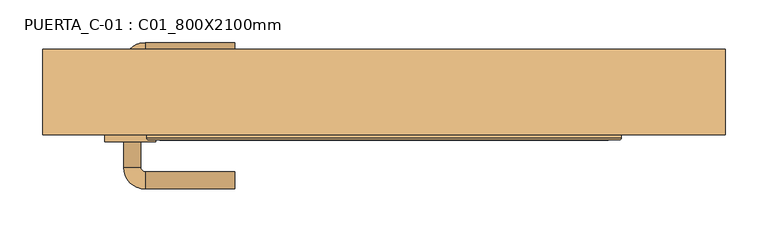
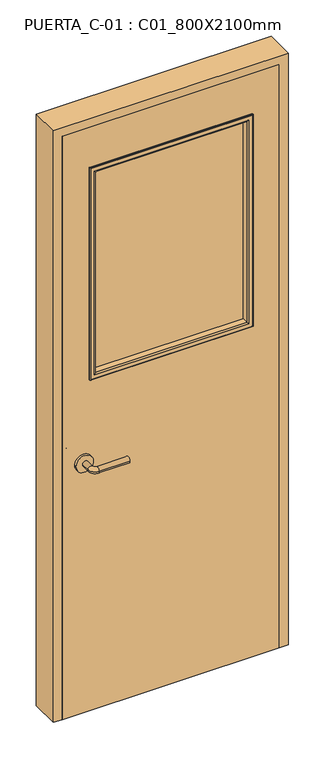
"""IFC4 building model written with IfcOpenShell, lengths in millimetres: door geometry, PUERTA_C-01 : C01_800X2100mm."""

from ifc_helpers import new_model, si_unit, point, frame, frame_2d, origin, place, context, project, spatial, polyline, circle_curve, ellipse_curve, trimmed, segment, composite_curve, outline, extrude, faceted_brep, source, transform, mapped, element, save
from ifc_brep_helpers import plane_surface, cylinder_surface, revolved_surface, advanced_brep


def puerta_c_01_c01_800x2100mm_3cbcec37(model_context):
    return source(origin(), model_context, "Body", "SolidModel", [
        advanced_brep(
        [(-304.990625, -13.35, 900.0), (-284.990625, -13.35, 900.0), (-304.990625, 16.65, 900.0), (-284.990625, 16.65, 900.0), (-279.990625, 21.65, 900.0), (-279.990625, 41.65, 900.0), (-174.990625, 41.65, 900.0), (-174.990625, 21.65, 900.0)],
        [
            (0, 1, circle_curve(frame((-294.990625, -13.35, 900.0), z_axis=(0.0, -1.0, 0.0), x_axis=(1.0, 0.0, 0.0)), 10.0)),
            (1, 0, circle_curve(frame((-294.990625, -13.35, 900.0), z_axis=(0.0, -1.0, 0.0), x_axis=(1.0, 0.0, 0.0)), 10.0)),
            (0, 2),
            (2, 3, circle_curve(frame((-294.990625, 16.65, 900.0), z_axis=(0.0, -1.0, 0.0), x_axis=(1.0, 0.0, 0.0)), 10.0)),
            (3, 1),
            (3, 2, circle_curve(frame((-294.990625, 16.65, 900.0), z_axis=(0.0, -1.0, 0.0), x_axis=(1.0, 0.0, 0.0)), 10.0)),
            (4, 3, circle_curve(frame((-279.990625, 16.65, 900.0), z_axis=(0.0, 0.0, 1.0), x_axis=(-1.0, 0.0, 0.0)), 5.0)),
            (2, 5, circle_curve(frame((-279.990625, 16.65, 900.0), z_axis=(0.0, 0.0, -1.0), x_axis=(-1.0, 0.0, 0.0)), 25.0)),
            (5, 4, circle_curve(frame((-279.990625, 31.65, 900.0), z_axis=(-1.0, 0.0, 0.0), x_axis=(0.0, -1.0, 0.0)), 10.0)),
            (4, 5, circle_curve(frame((-279.990625, 31.65, 900.0), z_axis=(-1.0, 0.0, 0.0), x_axis=(0.0, -1.0, 0.0)), 10.0)),
            (6, 7, circle_curve(frame((-174.990625, 31.65, 900.0), z_axis=(1.0, 0.0, 0.0), x_axis=(0.0, -1.0, 0.0)), 10.0)),
            (7, 6, circle_curve(frame((-174.990625, 31.65, 900.0), z_axis=(1.0, 0.0, 0.0), x_axis=(0.0, -1.0, 0.0)), 10.0)),
            (5, 6),
            (7, 4),
        ],
        [
            plane_surface(frame((-294.990625, -13.35, 900.0), z_axis=(0.0, -1.0, 0.0), x_axis=(0.0, 0.0, 1.0))),
            cylinder_surface(frame((-294.990625, -13.35, 900.0), z_axis=(0.0, -1.0, 0.0), x_axis=(1.0, 0.0, 0.0)), 10.0),
            revolved_surface(trimmed(ellipse_curve(frame((-294.990625, 16.65, 900.0), z_axis=(0.0, -1.0, 0.0), x_axis=(1.0, 0.0, 0.0)), 10.0, 10.0), [point((-304.990625, 16.65, 900.0))], [point((-284.990625, 16.65, 900.0))], True, "CARTESIAN"), (-279.990625, 16.65, 900.0), (0.0, 0.0, -1.0)),
            revolved_surface(trimmed(ellipse_curve(frame((-294.990625, 16.65, 900.0), z_axis=(0.0, -1.0, 0.0), x_axis=(1.0, 0.0, 0.0)), 10.0, 10.0), [point((-284.990625, 16.65, 900.0))], [point((-304.990625, 16.65, 900.0))], True, "CARTESIAN"), (-279.990625, 16.65, 900.0), (0.0, 0.0, -1.0)),
            plane_surface(frame((-174.990625, 31.65, 900.0), z_axis=(1.0, 0.0, 0.0), x_axis=(0.0, 0.0, 1.0))),
            cylinder_surface(frame((-279.990625, 31.65, 900.0), z_axis=(-1.0, 0.0, 0.0), x_axis=(0.0, -1.0, 0.0)), 10.0),
        ],
        [
            (0, [[1, 2]]),
            (1, [[-1, 3, 4, 5]]),
            (1, [[-2, -5, 6, -3]]),
            (2, [[7, -4, 8, 9]]),
            (3, [[-8, -6, -7, 10]]),
            (4, [[11, 12]]),
            (5, [[-9, 13, -12, 14]]),
            (5, [[-10, -14, -11, -13]]),
        ],
    ),
        extrude(outline(composite_curve([segment(trimmed(circle_curve(frame_2d((900.0, -297.490625)), 30.0), [point((900.0, -327.490625))], [point((900.0, -267.490625))], False, "CARTESIAN"), True, "CONTINUOUS"), segment(trimmed(circle_curve(frame_2d((900.0, -297.490625)), 30.0), [point((900.0, -267.490625))], [point((900.0, -327.490625))], False, "CARTESIAN"), True, "CONTINUOUS")], self_intersect=False)), frame((0.0, -21.35, 0.0), z_axis=(0.0, 1.0, 0.0), x_axis=(0.0, 0.0, 1.0)), (0.0, 0.0, 1.0), 8.0),
        advanced_brep(
        [(-304.990625, -74.35, 900.0), (-284.990625, -74.35, 900.0), (-284.990625, -104.35, 900.0), (-304.990625, -104.35, 900.0), (-279.990625, -109.35, 900.0), (-279.990625, -129.35, 900.0), (-174.990625, -129.35, 900.0), (-174.990625, -109.35, 900.0)],
        [
            (0, 1, circle_curve(frame((-294.990625, -74.35, 900.0), z_axis=(0.0, 1.0, 0.0), x_axis=(1.0, 0.0, 0.0)), 10.0)),
            (1, 0, circle_curve(frame((-294.990625, -74.35, 900.0), z_axis=(0.0, 1.0, 0.0), x_axis=(1.0, 0.0, 0.0)), 10.0)),
            (1, 2),
            (2, 3, circle_curve(frame((-294.990625, -104.35, 900.0), z_axis=(0.0, 1.0, 0.0), x_axis=(1.0, 0.0, 0.0)), 10.0)),
            (3, 0),
            (3, 2, circle_curve(frame((-294.990625, -104.35, 900.0), z_axis=(0.0, 1.0, 0.0), x_axis=(1.0, 0.0, 0.0)), 10.0)),
            (4, 5, circle_curve(frame((-279.990625, -119.35, 900.0), z_axis=(-1.0, 0.0, 0.0), x_axis=(0.0, 1.0, 0.0)), 10.0)),
            (5, 3, circle_curve(frame((-279.990625, -104.35, 900.0), z_axis=(0.0, 0.0, -1.0), x_axis=(-1.0, 0.0, 0.0)), 25.0)),
            (2, 4, circle_curve(frame((-279.990625, -104.35, 900.0), z_axis=(0.0, 0.0, 1.0), x_axis=(-1.0, 0.0, 0.0)), 5.0)),
            (5, 4, circle_curve(frame((-279.990625, -119.35, 900.0), z_axis=(-1.0, 0.0, 0.0), x_axis=(0.0, 1.0, 0.0)), 10.0)),
            (6, 7, circle_curve(frame((-174.990625, -119.35, 900.0), z_axis=(1.0, 0.0, 0.0), x_axis=(0.0, 1.0, 0.0)), 10.0)),
            (7, 6, circle_curve(frame((-174.990625, -119.35, 900.0), z_axis=(1.0, 0.0, 0.0), x_axis=(0.0, 1.0, 0.0)), 10.0)),
            (4, 7),
            (6, 5),
        ],
        [
            plane_surface(frame((-294.990625, -74.35, 900.0), z_axis=(0.0, 1.0, 0.0), x_axis=(0.0, 0.0, 1.0))),
            cylinder_surface(frame((-294.990625, -74.35, 900.0), z_axis=(0.0, 1.0, 0.0), x_axis=(1.0, 0.0, 0.0)), 10.0),
            revolved_surface(trimmed(ellipse_curve(frame((-294.990625, -104.35, 900.0), z_axis=(0.0, -1.0, 0.0), x_axis=(1.0, 0.0, 0.0)), 10.0, 10.0), [point((-304.990625, -104.35, 900.0))], [point((-284.990625, -104.35, 900.0))], True, "CARTESIAN"), (-279.990625, -104.35, 900.0), (0.0, 0.0, -1.0)),
            revolved_surface(trimmed(ellipse_curve(frame((-294.990625, -104.35, 900.0), z_axis=(0.0, -1.0, 0.0), x_axis=(1.0, 0.0, 0.0)), 10.0, 10.0), [point((-284.990625, -104.35, 900.0))], [point((-304.990625, -104.35, 900.0))], True, "CARTESIAN"), (-279.990625, -104.35, 900.0), (0.0, 0.0, -1.0)),
            plane_surface(frame((-174.990625, -119.35, 900.0), z_axis=(1.0, 0.0, 0.0), x_axis=(0.0, 0.0, 1.0))),
            cylinder_surface(frame((-279.990625, -119.35, 900.0), z_axis=(-1.0, 0.0, 0.0), x_axis=(0.0, 1.0, 0.0)), 10.0),
        ],
        [
            (0, [[1, 2]]),
            (1, [[3, 4, 5, -2]]),
            (1, [[-5, 6, -3, -1]]),
            (2, [[7, 8, -4, 9]]),
            (3, [[10, -9, -6, -8]]),
            (4, [[11, 12]]),
            (5, [[13, -11, 14, -7]]),
            (5, [[-14, -12, -13, -10]]),
        ],
    ),
        extrude(outline(composite_curve([segment(trimmed(circle_curve(frame_2d((900.0, -297.490625)), 30.0), [point((900.0, -327.490625))], [point((900.0, -267.490625))], False, "CARTESIAN"), True, "CONTINUOUS"), segment(trimmed(circle_curve(frame_2d((900.0, -297.490625)), 30.0), [point((900.0, -267.490625))], [point((900.0, -327.490625))], False, "CARTESIAN"), True, "CONTINUOUS")], self_intersect=False)), frame((0.0, -74.35, 0.0), z_axis=(0.0, 1.0, 0.0), x_axis=(0.0, 0.0, 1.0)), (0.0, 0.0, 1.0), 8.0),
        faceted_brep([(370.0, -33.1875, 0.0), (354.125, -33.1875, 0.0), (354.125, 33.65, 0.0), (400.0, 33.65, 0.0), (400.0, -66.35, 0.0), (370.0, -66.35, 0.0), (370.0, -66.35, 2100.0), (370.0, -33.1875, 2100.0), (400.0, -66.35, 2130.0), (-400.0, -66.35, 2130.0), (-400.0, -66.35, 0.0), (-370.0, -66.35, 0.0), (-370.0, -66.35, 2100.0), (400.0, 33.65, 2130.0), (354.125, 33.65, 2084.125), (-354.125, 33.65, 2084.125), (-354.125, 33.65, 0.0), (-400.0, 33.65, 0.0), (-400.0, 33.65, 2130.0), (-370.0, -33.1875, 2100.0), (-370.0, -33.1875, 0.0), (-354.125, -33.1875, 0.0), (-354.125, -33.1875, 2084.125), (354.125, -33.1875, 2084.125)], [[[0, 1, 2, 3, 4, 5]], [[5, 6, 7, 0]], [[4, 8, 9, 10, 11, 12, 6, 5]], [[3, 13, 8, 4]], [[2, 14, 15, 16, 17, 18, 13, 3]], [[0, 7, 19, 20, 21, 22, 23, 1]], [[6, 12, 19, 7]], [[13, 18, 9, 8]], [[20, 11, 10, 17, 16, 21]], [[12, 11, 20, 19]], [[18, 17, 10, 9]], [[1, 23, 14, 2]], [[23, 22, 15, 14]], [[22, 21, 16, 15]]]),
        extrude(outline(polyline([(2100.0, -370.0), (0.0, -370.0), (0.0, 370.0), (2100.0, 370.0), (2100.0, -370.0)]), holes=[polyline([(1947.6, -270.0), (1947.6, 270.0), (1200.0, 270.0), (1200.0, -270.0), (1947.6, -270.0)])]), frame((0.0, -66.35, 0.0), z_axis=(0.0, 1.0, 0.0), x_axis=(0.0, 0.0, 1.0)), (0.0, 0.0, 1.0), 45.0),
        extrude(outline(polyline([(270.0, -41.35), (270.0, -46.35), (-270.0, -46.35), (-270.0, -41.35), (270.0, -41.35)])), frame((0.0, 0.0, 1200.0), z_axis=(0.0, 0.0, 1.0), x_axis=(1.0, 0.0, 0.0)), (0.0, 0.0, 1.0), 747.6),
        advanced_brep(
        [(-270.0, -41.35, 1200.0), (-270.0, -41.35, 1947.6), (-270.0, -21.35, 1947.6), (-270.0, -21.35, 1200.0), (-258.0, -20.35, 1212.0), (-258.0, -20.35, 1935.6), (-258.0, -41.35, 1935.6), (-258.0, -41.35, 1212.0), (-263.0, -15.35, 1207.0), (-263.0, -15.35, 1940.6), (-278.0, -17.35, 1192.0), (-278.0, -17.35, 1955.6), (-276.0, -15.35, 1953.6), (-276.0, -15.35, 1194.0), (-278.0, -21.35, 1192.0), (-278.0, -21.35, 1955.6), (270.0, -41.35, 1947.6), (270.0, -21.35, 1947.6), (258.0, -20.35, 1935.6), (258.0, -41.35, 1935.6), (263.0, -15.35, 1940.6), (278.0, -17.35, 1955.6), (276.0, -15.35, 1953.6), (278.0, -21.35, 1955.6), (270.0, -41.35, 1200.0), (270.0, -21.35, 1200.0), (258.0, -20.35, 1212.0), (258.0, -41.35, 1212.0), (263.0, -15.35, 1207.0), (278.0, -17.35, 1192.0), (276.0, -15.35, 1194.0), (278.0, -21.35, 1192.0)],
        [
            (0, 1),
            (1, 2),
            (2, 3),
            (3, 0),
            (4, 5),
            (5, 6),
            (6, 7),
            (7, 4),
            (8, 9),
            (9, 5, ellipse_curve(frame((-263.0, -20.35, 1940.6), z_axis=(-0.7071067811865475, 0.0, -0.7071067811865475), x_axis=(0.7071067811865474, 0.0, -0.7071067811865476)), 7.0710678, 5.0)),
            (4, 8, ellipse_curve(frame((-263.0, -20.35, 1207.0), z_axis=(-0.7071067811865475, 0.0, 0.7071067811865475), x_axis=(-0.7071067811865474, 0.0, -0.7071067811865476)), 7.0710678, 5.0)),
            (10, 11),
            (11, 12, ellipse_curve(frame((-276.0, -17.35, 1953.6), z_axis=(-0.7071067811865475, 0.0, -0.7071067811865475), x_axis=(0.7071067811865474, 0.0, -0.7071067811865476)), 2.8284271, 2.0)),
            (12, 13),
            (13, 10, ellipse_curve(frame((-276.0, -17.35, 1194.0), z_axis=(-0.7071067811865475, 0.0, 0.7071067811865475), x_axis=(-0.7071067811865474, 0.0, -0.7071067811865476)), 2.8284271, 2.0)),
            (14, 15),
            (15, 11),
            (10, 14),
            (1, 16),
            (16, 17),
            (17, 2),
            (5, 18),
            (18, 19),
            (19, 6),
            (9, 20),
            (20, 18, ellipse_curve(frame((263.0, -20.35, 1940.6), z_axis=(-0.7071067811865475, 0.0, 0.7071067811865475), x_axis=(-0.7071067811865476, 0.0, -0.7071067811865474)), 7.0710678, 5.0)),
            (11, 21),
            (21, 22, ellipse_curve(frame((276.0, -17.35, 1953.6), z_axis=(-0.7071067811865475, 0.0, 0.7071067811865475), x_axis=(-0.7071067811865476, 0.0, -0.7071067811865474)), 2.8284271, 2.0)),
            (22, 12),
            (15, 23),
            (23, 21),
            (16, 24),
            (24, 25),
            (25, 17),
            (18, 26),
            (26, 27),
            (27, 19),
            (20, 28),
            (28, 26, ellipse_curve(frame((263.0, -20.35, 1207.0), z_axis=(0.7071067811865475, 0.0, 0.7071067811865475), x_axis=(-0.7071067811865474, 0.0, 0.7071067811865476)), 7.0710678, 5.0)),
            (21, 29),
            (29, 30, ellipse_curve(frame((276.0, -17.35, 1194.0), z_axis=(0.7071067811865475, 0.0, 0.7071067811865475), x_axis=(-0.7071067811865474, 0.0, 0.7071067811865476)), 2.8284271, 2.0)),
            (30, 22),
            (23, 31),
            (31, 29),
            (14, 31),
            (25, 3),
            (24, 0),
            (27, 7),
            (26, 4),
            (28, 8),
            (30, 13),
            (29, 10),
        ],
        [
            plane_surface(frame((-270.0, -21.35, 1200.0), z_axis=(-1.0, 0.0, 0.0), x_axis=(0.0, 0.0, 1.0))),
            plane_surface(frame((-258.0, -41.35, 1212.0), z_axis=(1.0, 0.0, 0.0), x_axis=(0.0, 0.0, 1.0))),
            cylinder_surface(frame((-263.0, -20.35, 1200.0), z_axis=(0.0, 0.0, -1.0), x_axis=(-1.0, 0.0, 0.0)), 5.0),
            cylinder_surface(frame((-276.0, -17.35, 1200.0), z_axis=(0.0, 0.0, -1.0), x_axis=(-1.0, 0.0, 0.0)), 2.0),
            plane_surface(frame((-278.0, -17.35, 1192.0), z_axis=(-1.0, 0.0, 0.0), x_axis=(0.0, 0.0, 1.0))),
            plane_surface(frame((-270.0, -21.35, 1947.6), z_axis=(0.0, 0.0, 1.0), x_axis=(1.0, 0.0, 0.0))),
            plane_surface(frame((-258.0, -41.35, 1935.6), z_axis=(0.0, 0.0, -1.0), x_axis=(1.0, 0.0, 0.0))),
            cylinder_surface(frame((-270.0, -20.35, 1940.6), z_axis=(-1.0, 0.0, 0.0), x_axis=(0.0, 0.0, 1.0)), 5.0),
            cylinder_surface(frame((-270.0, -17.35, 1953.6), z_axis=(-1.0, 0.0, 0.0), x_axis=(0.0, 0.0, 1.0)), 2.0),
            plane_surface(frame((-278.0, -17.35, 1955.6), z_axis=(0.0, 0.0, 1.0), x_axis=(1.0, 0.0, 0.0))),
            plane_surface(frame((270.0, -21.35, 1947.6), z_axis=(1.0, 0.0, 0.0), x_axis=(0.0, 0.0, -1.0))),
            plane_surface(frame((258.0, -41.35, 1935.6), z_axis=(-1.0, 0.0, 0.0), x_axis=(0.0, 0.0, -1.0))),
            cylinder_surface(frame((263.0, -20.35, 1947.6), z_axis=(0.0, 0.0, 1.0), x_axis=(1.0, 0.0, 0.0)), 5.0),
            cylinder_surface(frame((276.0, -17.35, 1947.6), z_axis=(0.0, 0.0, 1.0), x_axis=(1.0, 0.0, 0.0)), 2.0),
            plane_surface(frame((278.0, -17.35, 1955.6), z_axis=(1.0, 0.0, 0.0), x_axis=(0.0, 0.0, -1.0))),
            plane_surface(frame((278.0, -21.35, 1192.0), z_axis=(0.0, -1.0, 0.0), x_axis=(-1.0, 0.0, 0.0))),
            plane_surface(frame((270.0, -21.35, 1200.0), z_axis=(0.0, 0.0, -1.0), x_axis=(-1.0, 0.0, 0.0))),
            plane_surface(frame((270.0, -41.35, 1200.0), z_axis=(0.0, -1.0, 0.0), x_axis=(-1.0, 0.0, 0.0))),
            plane_surface(frame((258.0, -41.35, 1212.0), z_axis=(0.0, 0.0, 1.0), x_axis=(-1.0, 0.0, 0.0))),
            cylinder_surface(frame((270.0, -20.35, 1207.0), z_axis=(1.0, 0.0, 0.0), x_axis=(0.0, 0.0, -1.0)), 5.0),
            plane_surface(frame((263.0, -15.35, 1207.0), z_axis=(0.0, 1.0, 0.0), x_axis=(-1.0, 0.0, 0.0))),
            cylinder_surface(frame((270.0, -17.35, 1194.0), z_axis=(1.0, 0.0, 0.0), x_axis=(0.0, 0.0, -1.0)), 2.0),
            plane_surface(frame((278.0, -17.35, 1192.0), z_axis=(0.0, 0.0, -1.0), x_axis=(-1.0, 0.0, 0.0))),
        ],
        [
            (0, [[1, 2, 3, 4]]),
            (1, [[5, 6, 7, 8]]),
            (2, [[9, 10, -5, 11]]),
            (3, [[12, 13, 14, 15]]),
            (4, [[16, 17, -12, 18]]),
            (5, [[19, 20, 21, -2]]),
            (6, [[22, 23, 24, -6]]),
            (7, [[25, 26, -22, -10]]),
            (8, [[27, 28, 29, -13]]),
            (9, [[30, 31, -27, -17]]),
            (10, [[32, 33, 34, -20]]),
            (11, [[35, 36, 37, -23]]),
            (12, [[38, 39, -35, -26]]),
            (13, [[40, 41, 42, -28]]),
            (14, [[43, 44, -40, -31]]),
            (15, [[-16, 45, -43, -30], [-3, -21, -34, 46]]),
            (16, [[47, -4, -46, -33]]),
            (17, [[-1, -47, -32, -19], [-7, -24, -37, 48]]),
            (18, [[49, -8, -48, -36]]),
            (19, [[50, -11, -49, -39]]),
            (20, [[-14, -29, -42, 51], [-9, -50, -38, -25]]),
            (21, [[52, -15, -51, -41]]),
            (22, [[-45, -18, -52, -44]]),
        ],
    ),
        advanced_brep(
        [(-270.0, -46.35, 1947.6), (-270.0, -46.35, 1200.0), (-270.0, -66.35, 1200.0), (-270.0, -66.35, 1947.6), (-258.0, -67.35, 1935.6), (-258.0, -67.35, 1212.0), (-258.0, -46.35, 1212.0), (-258.0, -46.35, 1935.6), (-263.0, -72.35, 1940.6), (-263.0, -72.35, 1207.0), (-278.0, -70.35, 1955.6), (-278.0, -70.35, 1192.0), (-276.0, -72.35, 1194.0), (-276.0, -72.35, 1953.6), (-278.0, -66.35, 1955.6), (-278.0, -66.35, 1192.0), (270.0, -46.35, 1200.0), (270.0, -66.35, 1200.0), (258.0, -67.35, 1212.0), (258.0, -46.35, 1212.0), (263.0, -72.35, 1207.0), (278.0, -70.35, 1192.0), (276.0, -72.35, 1194.0), (278.0, -66.35, 1192.0), (270.0, -46.35, 1947.6), (270.0, -66.35, 1947.6), (258.0, -67.35, 1935.6), (258.0, -46.35, 1935.6), (263.0, -72.35, 1940.6), (278.0, -70.35, 1955.6), (276.0, -72.35, 1953.6), (278.0, -66.35, 1955.6)],
        [
            (0, 1),
            (1, 2),
            (2, 3),
            (3, 0),
            (4, 5),
            (5, 6),
            (6, 7),
            (7, 4),
            (8, 9),
            (9, 5, ellipse_curve(frame((-263.0, -67.35, 1207.0), z_axis=(-0.7071067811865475, 0.0, 0.7071067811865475), x_axis=(0.7071067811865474, 0.0, 0.7071067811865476)), 7.0710678, 5.0)),
            (4, 8, ellipse_curve(frame((-263.0, -67.35, 1940.6), z_axis=(-0.7071067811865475, 0.0, -0.7071067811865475), x_axis=(-0.7071067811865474, 0.0, 0.7071067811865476)), 7.0710678, 5.0)),
            (10, 11),
            (11, 12, ellipse_curve(frame((-276.0, -70.35, 1194.0), z_axis=(-0.7071067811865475, 0.0, 0.7071067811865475), x_axis=(0.7071067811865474, 0.0, 0.7071067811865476)), 2.8284271, 2.0)),
            (12, 13),
            (13, 10, ellipse_curve(frame((-276.0, -70.35, 1953.6), z_axis=(-0.7071067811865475, 0.0, -0.7071067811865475), x_axis=(-0.7071067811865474, 0.0, 0.7071067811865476)), 2.8284271, 2.0)),
            (14, 15),
            (15, 11),
            (10, 14),
            (1, 16),
            (16, 17),
            (17, 2),
            (5, 18),
            (18, 19),
            (19, 6),
            (9, 20),
            (20, 18, ellipse_curve(frame((263.0, -67.35, 1207.0), z_axis=(-0.7071067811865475, 0.0, -0.7071067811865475), x_axis=(-0.7071067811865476, 0.0, 0.7071067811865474)), 7.0710678, 5.0)),
            (11, 21),
            (21, 22, ellipse_curve(frame((276.0, -70.35, 1194.0), z_axis=(-0.7071067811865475, 0.0, -0.7071067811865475), x_axis=(-0.7071067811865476, 0.0, 0.7071067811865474)), 2.8284271, 2.0)),
            (22, 12),
            (15, 23),
            (23, 21),
            (16, 24),
            (24, 25),
            (25, 17),
            (18, 26),
            (26, 27),
            (27, 19),
            (20, 28),
            (28, 26, ellipse_curve(frame((263.0, -67.35, 1940.6), z_axis=(0.7071067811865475, 0.0, -0.7071067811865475), x_axis=(-0.7071067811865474, 0.0, -0.7071067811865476)), 7.0710678, 5.0)),
            (21, 29),
            (29, 30, ellipse_curve(frame((276.0, -70.35, 1953.6), z_axis=(0.7071067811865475, 0.0, -0.7071067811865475), x_axis=(-0.7071067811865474, 0.0, -0.7071067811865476)), 2.8284271, 2.0)),
            (30, 22),
            (23, 31),
            (31, 29),
            (14, 31),
            (25, 3),
            (24, 0),
            (27, 7),
            (26, 4),
            (28, 8),
            (30, 13),
            (29, 10),
        ],
        [
            plane_surface(frame((-270.0, -66.35, 1947.6), z_axis=(-1.0, 0.0, 0.0), x_axis=(0.0, 0.0, -1.0))),
            plane_surface(frame((-258.0, -46.35, 1935.6), z_axis=(1.0, 0.0, 0.0), x_axis=(0.0, 0.0, -1.0))),
            cylinder_surface(frame((-263.0, -67.35, 1947.6), z_axis=(0.0, 0.0, 1.0), x_axis=(-1.0, 0.0, 0.0)), 5.0),
            cylinder_surface(frame((-276.0, -70.35, 1947.6), z_axis=(0.0, 0.0, 1.0), x_axis=(-1.0, 0.0, 0.0)), 2.0),
            plane_surface(frame((-278.0, -70.35, 1955.6), z_axis=(-1.0, 0.0, 0.0), x_axis=(0.0, 0.0, -1.0))),
            plane_surface(frame((-270.0, -66.35, 1200.0), z_axis=(0.0, 0.0, -1.0), x_axis=(1.0, 0.0, 0.0))),
            plane_surface(frame((-258.0, -46.35, 1212.0), z_axis=(0.0, 0.0, 1.0), x_axis=(1.0, 0.0, 0.0))),
            cylinder_surface(frame((-270.0, -67.35, 1207.0), z_axis=(-1.0, 0.0, 0.0), x_axis=(0.0, 0.0, -1.0)), 5.0),
            cylinder_surface(frame((-270.0, -70.35, 1194.0), z_axis=(-1.0, 0.0, 0.0), x_axis=(0.0, 0.0, -1.0)), 2.0),
            plane_surface(frame((-278.0, -70.35, 1192.0), z_axis=(0.0, 0.0, -1.0), x_axis=(1.0, 0.0, 0.0))),
            plane_surface(frame((270.0, -66.35, 1200.0), z_axis=(1.0, 0.0, 0.0), x_axis=(0.0, 0.0, 1.0))),
            plane_surface(frame((258.0, -46.35, 1212.0), z_axis=(-1.0, 0.0, 0.0), x_axis=(0.0, 0.0, 1.0))),
            cylinder_surface(frame((263.0, -67.35, 1200.0), z_axis=(0.0, 0.0, -1.0), x_axis=(1.0, 0.0, 0.0)), 5.0),
            cylinder_surface(frame((276.0, -70.35, 1200.0), z_axis=(0.0, 0.0, -1.0), x_axis=(1.0, 0.0, 0.0)), 2.0),
            plane_surface(frame((278.0, -70.35, 1192.0), z_axis=(1.0, 0.0, 0.0), x_axis=(0.0, 0.0, 1.0))),
            plane_surface(frame((278.0, -66.35, 1955.6), z_axis=(0.0, 1.0, 0.0), x_axis=(-1.0, 0.0, 0.0))),
            plane_surface(frame((270.0, -66.35, 1947.6), z_axis=(0.0, 0.0, 1.0), x_axis=(-1.0, 0.0, 0.0))),
            plane_surface(frame((270.0, -46.35, 1947.6), z_axis=(0.0, 1.0, 0.0), x_axis=(-1.0, 0.0, 0.0))),
            plane_surface(frame((258.0, -46.35, 1935.6), z_axis=(0.0, 0.0, -1.0), x_axis=(-1.0, 0.0, 0.0))),
            cylinder_surface(frame((270.0, -67.35, 1940.6), z_axis=(1.0, 0.0, 0.0), x_axis=(0.0, 0.0, 1.0)), 5.0),
            plane_surface(frame((263.0, -72.35, 1940.6), z_axis=(0.0, -1.0, 0.0), x_axis=(-1.0, 0.0, 0.0))),
            cylinder_surface(frame((270.0, -70.35, 1953.6), z_axis=(1.0, 0.0, 0.0), x_axis=(0.0, 0.0, 1.0)), 2.0),
            plane_surface(frame((278.0, -70.35, 1955.6), z_axis=(0.0, 0.0, 1.0), x_axis=(-1.0, 0.0, 0.0))),
        ],
        [
            (0, [[1, 2, 3, 4]]),
            (1, [[5, 6, 7, 8]]),
            (2, [[9, 10, -5, 11]]),
            (3, [[12, 13, 14, 15]]),
            (4, [[16, 17, -12, 18]]),
            (5, [[19, 20, 21, -2]]),
            (6, [[22, 23, 24, -6]]),
            (7, [[25, 26, -22, -10]]),
            (8, [[27, 28, 29, -13]]),
            (9, [[30, 31, -27, -17]]),
            (10, [[32, 33, 34, -20]]),
            (11, [[35, 36, 37, -23]]),
            (12, [[38, 39, -35, -26]]),
            (13, [[40, 41, 42, -28]]),
            (14, [[43, 44, -40, -31]]),
            (15, [[-16, 45, -43, -30], [-3, -21, -34, 46]]),
            (16, [[47, -4, -46, -33]]),
            (17, [[-1, -47, -32, -19], [-7, -24, -37, 48]]),
            (18, [[49, -8, -48, -36]]),
            (19, [[50, -11, -49, -39]]),
            (20, [[-14, -29, -42, 51], [-9, -50, -38, -25]]),
            (21, [[52, -15, -51, -41]]),
            (22, [[-45, -18, -52, -44]]),
        ],
    ),
    ])


if __name__ == "__main__":
    model = new_model("IFC4")
    model_context = context("Model", 3, world=origin())
    ifc_project = project(units=[si_unit("LENGTHUNIT", "METRE", prefix="MILLI")], contexts=[model_context])
    site = spatial("IfcSite", under=ifc_project)
    building = spatial("IfcBuilding", under=site)
    placement = place(None, origin())
    puerta_c_01_c01_800x2100mm_shape = puerta_c_01_c01_800x2100mm_3cbcec37(model_context)
    element("IfcDoor", 1, ObjectType="PUERTA_C-01 : C01_800X2100mm", at=placement, inside=building, context=model_context, shape_type="MappedRepresentation", body=[
        mapped(puerta_c_01_c01_800x2100mm_shape, transform((0.0, 0.0, 0.0), x_axis=(1.0, 0.0, 0.0), y_axis=(0.0, 1.0, 0.0), z_axis=(0.0, 0.0, 1.0))),
    ])
    save(model, "model.ifc")
